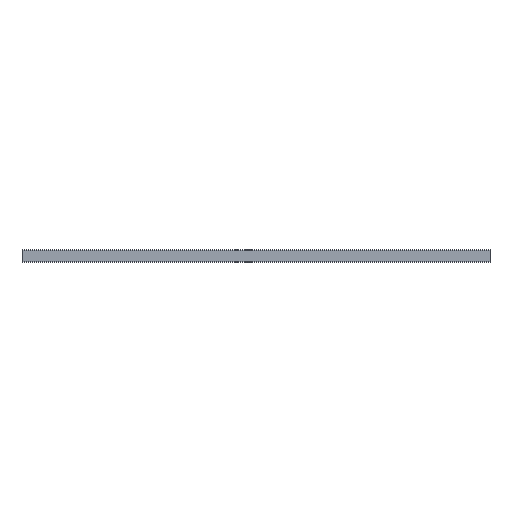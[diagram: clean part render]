
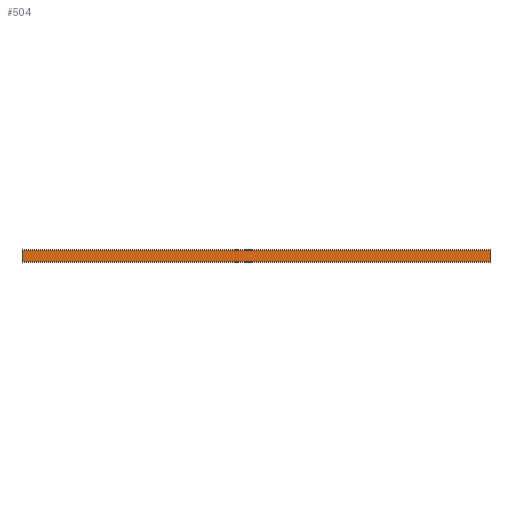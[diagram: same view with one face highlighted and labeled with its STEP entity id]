
A CAD part, top view. The second image highlights one B-rep face of the part: STEP entity #504.
In plain terms, the highlighted planar face has unit normal (0, 0, 1).
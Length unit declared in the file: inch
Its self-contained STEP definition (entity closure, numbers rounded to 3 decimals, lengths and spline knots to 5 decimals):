
#28=PLANE('',#570);
#54=FACE_OUTER_BOUND('',#80,.T.);
#80=EDGE_LOOP('',(#419,#420,#421,#422));
#83=LINE('',#725,#135);
#132=LINE('',#860,#184);
#133=LINE('',#862,#185);
#134=LINE('',#863,#186);
#135=VECTOR('',#579,0.3937);
#184=VECTOR('',#710,0.3937);
#185=VECTOR('',#713,0.3937);
#186=VECTOR('',#714,0.3937);
#208=VERTEX_POINT('',#722);
#209=VERTEX_POINT('',#724);
#253=VERTEX_POINT('',#856);
#254=VERTEX_POINT('',#858);
#256=EDGE_CURVE('',#208,#209,#83,.T.);
#324=EDGE_CURVE('',#253,#254,#132,.T.);
#325=EDGE_CURVE('',#208,#253,#133,.T.);
#326=EDGE_CURVE('',#209,#254,#134,.T.);
#419=ORIENTED_EDGE('',*,*,#325,.T.);
#420=ORIENTED_EDGE('',*,*,#324,.T.);
#421=ORIENTED_EDGE('',*,*,#326,.F.);
#422=ORIENTED_EDGE('',*,*,#256,.F.);
#504=ADVANCED_FACE('',(#54),#28,.T.);
#570=AXIS2_PLACEMENT_3D('',#861,#711,#712);
#579=DIRECTION('',(1.,0.,0.));
#710=DIRECTION('',(1.,0.,0.));
#711=DIRECTION('center_axis',(0.,0.,1.));
#712=DIRECTION('ref_axis',(0.,-1.,0.));
#713=DIRECTION('',(0.,-1.,0.));
#714=DIRECTION('',(0.,-1.,0.));
#722=CARTESIAN_POINT('',(0.,-0.01792,2.49831));
#724=CARTESIAN_POINT('',(120.,-0.01792,2.49831));
#725=CARTESIAN_POINT('',(0.,-0.01792,2.49831));
#856=CARTESIAN_POINT('',(0.,-3.01792,2.49831));
#858=CARTESIAN_POINT('',(120.,-3.01792,2.49831));
#860=CARTESIAN_POINT('',(0.,-3.01792,2.49831));
#861=CARTESIAN_POINT('Origin',(0.,-0.01792,2.49831));
#862=CARTESIAN_POINT('',(0.,-0.01792,2.49831));
#863=CARTESIAN_POINT('',(120.,-0.01792,2.49831));
